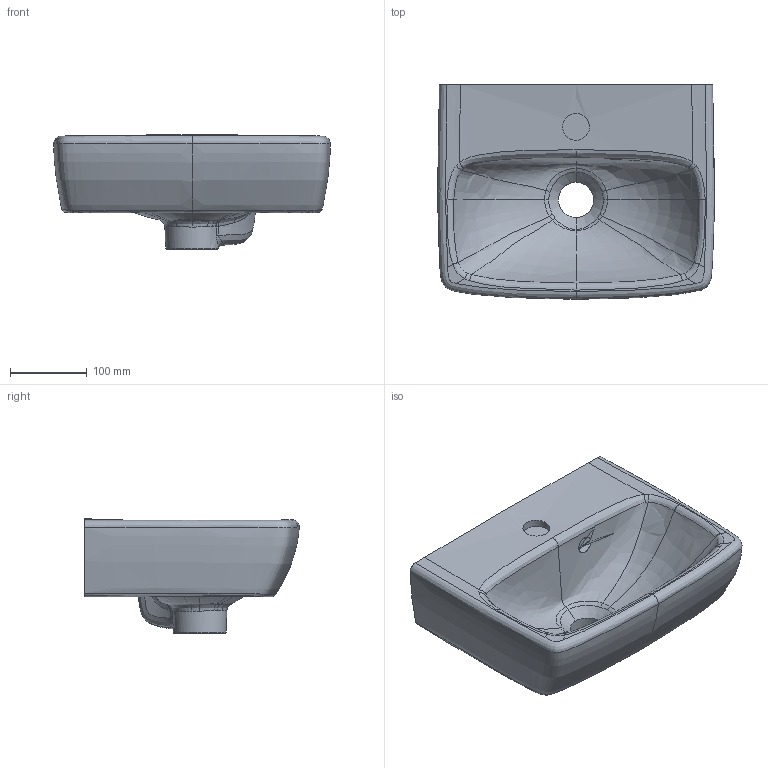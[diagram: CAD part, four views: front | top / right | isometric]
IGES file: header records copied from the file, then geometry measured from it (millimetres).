
Global section: file name: 500316; native system: Autodesk Inventor 2018; preprocessor: unknown; author: JANAN; date: 20200501.053123; units: millimetre
Bounding box: 360.88 x 280 x 150 mm (x, y, z)
Volume: 6018861.6 mm3; surface area: 356579.3 mm2
Topology: 1 solids, 1 shells, 129 faces, 317 edges, 192 vertices
Faces by surface type: bspline 129
